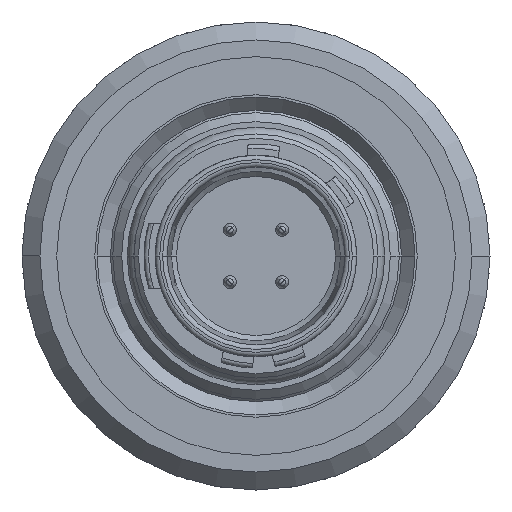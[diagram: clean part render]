
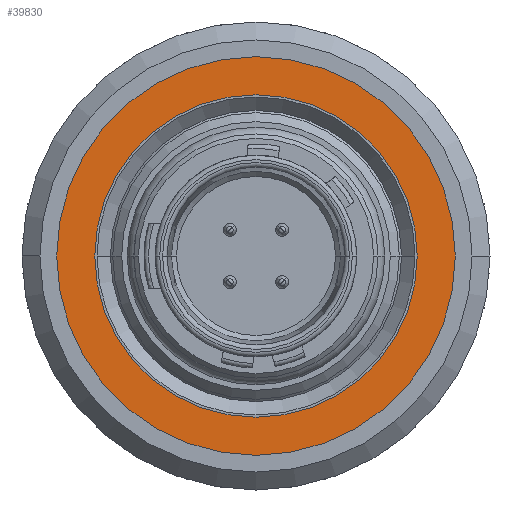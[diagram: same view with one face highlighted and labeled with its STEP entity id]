
A CAD part, left-side view. The second image highlights one B-rep face of the part: STEP entity #39830.
In plain terms, the highlighted planar face has unit normal (-1, 0, 0).
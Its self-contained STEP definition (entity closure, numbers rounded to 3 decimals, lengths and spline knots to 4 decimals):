
#10732=CARTESIAN_POINT('',(-4.89,0.,0.));
#10733=DIRECTION('',(1.,0.,0.));
#10734=DIRECTION('',(0.,-1.,0.));
#10735=AXIS2_PLACEMENT_3D('',#10732,#10733,#10734);
#10737=CARTESIAN_POINT('',(-4.89,0.,0.));
#10738=DIRECTION('',(1.,0.,0.));
#10739=DIRECTION('',(0.,1.,0.));
#10740=AXIS2_PLACEMENT_3D('',#10737,#10738,#10739);
#10742=CARTESIAN_POINT('',(-4.89,0.,0.));
#10743=DIRECTION('',(-1.,0.,0.));
#10744=DIRECTION('',(0.,-1.,0.));
#10745=AXIS2_PLACEMENT_3D('',#10742,#10743,#10744);
#10747=CARTESIAN_POINT('',(-4.89,0.,0.));
#10748=DIRECTION('',(-1.,0.,0.));
#10749=DIRECTION('',(0.,1.,0.));
#10750=AXIS2_PLACEMENT_3D('',#10747,#10748,#10749);
#19258=CARTESIAN_POINT('',(-4.89,4.45,0.));
#19259=VERTEX_POINT('',#19258);
#19260=CARTESIAN_POINT('',(-4.89,-4.45,0.));
#19261=VERTEX_POINT('',#19260);
#19262=CARTESIAN_POINT('',(-4.89,-3.6,0.));
#19263=CARTESIAN_POINT('',(-4.89,3.6,0.));
#19264=VERTEX_POINT('',#19262);
#19265=VERTEX_POINT('',#19263);
#39815=CARTESIAN_POINT('',(-4.89,0.,0.));
#39816=DIRECTION('',(-1.,0.,0.));
#39817=DIRECTION('',(0.,1.,0.));
#39818=AXIS2_PLACEMENT_3D('',#39815,#39816,#39817);
#39819=PLANE('',#39818);
#39820=ORIENTED_EDGE('',*,*,#39781,.T.);
#39821=ORIENTED_EDGE('',*,*,#39802,.T.);
#39822=EDGE_LOOP('',(#39820,#39821));
#39823=FACE_OUTER_BOUND('',#39822,.F.);
#39825=ORIENTED_EDGE('',*,*,#39824,.T.);
#39827=ORIENTED_EDGE('',*,*,#39826,.T.);
#39828=EDGE_LOOP('',(#39825,#39827));
#39829=FACE_BOUND('',#39828,.F.);
#10736=CIRCLE('',#10735,4.45);
#10741=CIRCLE('',#10740,4.45);
#10746=CIRCLE('',#10745,3.6);
#10751=CIRCLE('',#10750,3.6);
#39781=EDGE_CURVE('',#19261,#19259,#10736,.T.);
#39802=EDGE_CURVE('',#19259,#19261,#10741,.T.);
#39824=EDGE_CURVE('',#19264,#19265,#10746,.T.);
#39826=EDGE_CURVE('',#19265,#19264,#10751,.T.);
#39830=ADVANCED_FACE('',(#39823,#39829),#39819,.T.);
